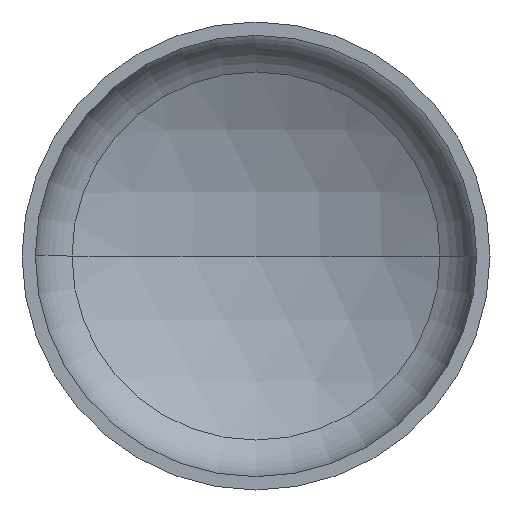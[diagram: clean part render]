
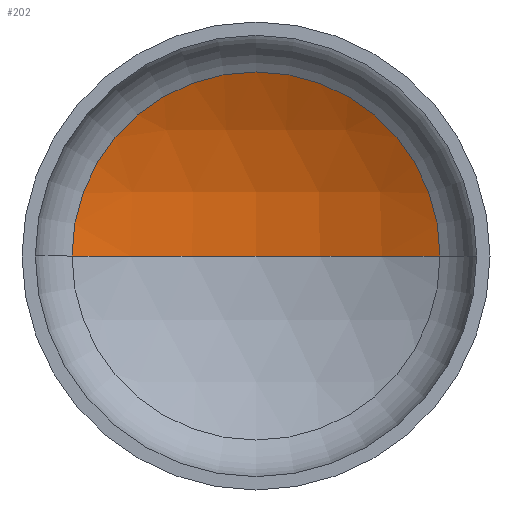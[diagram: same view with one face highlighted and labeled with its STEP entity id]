
A CAD part, front view. The second image highlights one B-rep face of the part: STEP entity #202.
In plain terms, the highlighted spherical face has radius 1040 mm.
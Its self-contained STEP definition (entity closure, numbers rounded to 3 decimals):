
#4 = CARTESIAN_POINT ( 'NONE',  ( 0., -611.458, 0. ) ) ;
#14 = EDGE_LOOP ( 'NONE', ( #23, #19, #122 ) ) ;
#19 = ORIENTED_EDGE ( 'NONE', *, *, #351, .T. ) ;
#23 = ORIENTED_EDGE ( 'NONE', *, *, #398, .F. ) ;
#24 = AXIS2_PLACEMENT_3D ( 'NONE', #159, #160, #372 ) ;
#26 = AXIS2_PLACEMENT_3D ( 'NONE', #139, #157, #152 ) ;
#27 = VERTEX_POINT ( 'NONE', #282 ) ;
#33 = CIRCLE ( 'NONE', #166, 1040. ) ;
#49 = AXIS2_PLACEMENT_3D ( 'NONE', #4, #215, #363 ) ;
#90 = VERTEX_POINT ( 'NONE', #337 ) ;
#122 = ORIENTED_EDGE ( 'NONE', *, *, #346, .T. ) ;
#139 = CARTESIAN_POINT ( 'NONE',  ( 0., 294.157, 0. ) ) ;
#145 = CARTESIAN_POINT ( 'NONE',  ( -511.333, 294.157, 0. ) ) ;
#152 = DIRECTION ( 'NONE',  ( 1., 0., 0. ) ) ;
#155 = SPHERICAL_SURFACE ( 'NONE', #49, 1040. ) ;
#157 = DIRECTION ( 'NONE',  ( 0., -1., 0. ) ) ;
#159 = CARTESIAN_POINT ( 'NONE',  ( 0., -611.458, 0. ) ) ;
#160 = DIRECTION ( 'NONE',  ( 0., 0., -1. ) ) ;
#166 = AXIS2_PLACEMENT_3D ( 'NONE', #200, #374, #225 ) ;
#199 = CIRCLE ( 'NONE', #26, 511.333 ) ;
#200 = CARTESIAN_POINT ( 'NONE',  ( 0., -611.458, 0. ) ) ;
#202 = ADVANCED_FACE ( 'NONE', ( #224 ), #155, .F. ) ;
#215 = DIRECTION ( 'NONE',  ( 0., 0., -1. ) ) ;
#224 = FACE_OUTER_BOUND ( 'NONE', #14, .T. ) ;
#225 = DIRECTION ( 'NONE',  ( 1., 0., 0. ) ) ;
#282 = CARTESIAN_POINT ( 'NONE',  ( 511.333, 294.157, 0. ) ) ;
#337 = CARTESIAN_POINT ( 'NONE',  ( 0., 428.542, 0. ) ) ;
#346 = EDGE_CURVE ( 'NONE', #27, #387, #199, .T. ) ;
#351 = EDGE_CURVE ( 'NONE', #90, #27, #388, .T. ) ;
#363 = DIRECTION ( 'NONE',  ( -1., 0., 0. ) ) ;
#372 = DIRECTION ( 'NONE',  ( -1., 0., 0. ) ) ;
#374 = DIRECTION ( 'NONE',  ( 0., 0., 1. ) ) ;
#387 = VERTEX_POINT ( 'NONE', #145 ) ;
#388 = CIRCLE ( 'NONE', #24, 1040. ) ;
#398 = EDGE_CURVE ( 'NONE', #90, #387, #33, .T. ) ;
